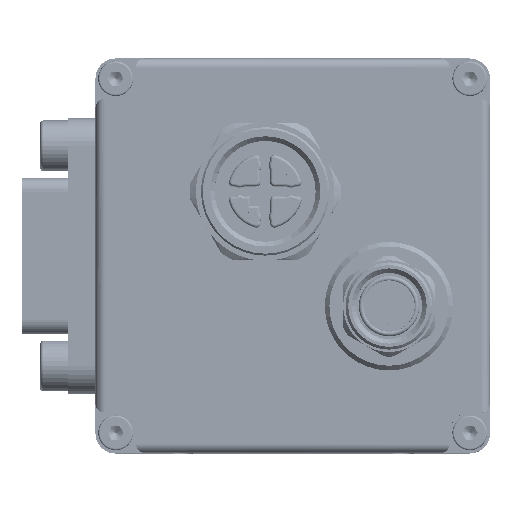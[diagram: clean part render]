
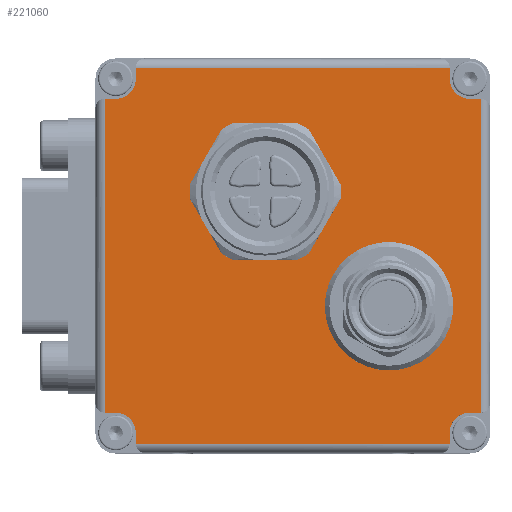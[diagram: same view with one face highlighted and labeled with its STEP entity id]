
A CAD part, top view. The second image highlights one B-rep face of the part: STEP entity #221060.
In plain terms, the highlighted planar face has unit normal (0, 0, 1).
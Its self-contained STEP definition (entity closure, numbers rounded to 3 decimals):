
#16987=FACE_BOUND('',#85601,.T.);
#16988=FACE_BOUND('',#85602,.T.);
#34857=LINE('',#374918,#52969);
#34862=LINE('',#374934,#52974);
#34896=LINE('',#375038,#53008);
#34900=LINE('',#375050,#53012);
#34901=LINE('',#375054,#53013);
#34902=LINE('',#375056,#53014);
#34903=LINE('',#375058,#53015);
#34904=LINE('',#375062,#53016);
#34905=LINE('',#375064,#53017);
#34906=LINE('',#375066,#53018);
#34907=LINE('',#375070,#53019);
#34908=LINE('',#375072,#53020);
#34909=LINE('',#375074,#53021);
#34910=LINE('',#375077,#53022);
#52969=VECTOR('',#311732,10.);
#52974=VECTOR('',#311751,10.);
#53008=VECTOR('',#311863,10.);
#53012=VECTOR('',#311875,10.);
#53013=VECTOR('',#311878,10.);
#53014=VECTOR('',#311879,10.);
#53015=VECTOR('',#311880,10.);
#53016=VECTOR('',#311883,10.);
#53017=VECTOR('',#311884,10.);
#53018=VECTOR('',#311885,10.);
#53019=VECTOR('',#311888,10.);
#53020=VECTOR('',#311889,10.);
#53021=VECTOR('',#311890,10.);
#53022=VECTOR('',#311893,10.);
#71543=FACE_OUTER_BOUND('',#85600,.T.);
#85600=EDGE_LOOP('',(#201933,#201934,#201935,#201936,#201937,#201938,#201939,
#201940,#201941,#201942,#201943,#201944,#201945,#201946,#201947,#201948));
#85601=EDGE_LOOP('',(#201949));
#85602=EDGE_LOOP('',(#201950,#201951,#201952,#201953,#201954,#201955,#201956,
#201957));
#96873=CIRCLE('',#245625,7.);
#96875=CIRCLE('',#245631,2.);
#96876=CIRCLE('',#245634,2.);
#96877=CIRCLE('',#245636,6.05);
#96878=CIRCLE('',#245638,2.);
#96879=CIRCLE('',#245641,2.);
#96880=CIRCLE('',#245643,6.05);
#96896=CIRCLE('',#245683,2.2);
#96897=CIRCLE('',#245684,2.2);
#96898=CIRCLE('',#245685,2.2);
#96899=CIRCLE('',#245686,2.2);
#113701=VERTEX_POINT('',#374893);
#113705=VERTEX_POINT('',#374911);
#113706=VERTEX_POINT('',#374913);
#113707=VERTEX_POINT('',#374917);
#113708=VERTEX_POINT('',#374921);
#113709=VERTEX_POINT('',#374925);
#113710=VERTEX_POINT('',#374929);
#113711=VERTEX_POINT('',#374933);
#113712=VERTEX_POINT('',#374937);
#113741=VERTEX_POINT('',#375035);
#113742=VERTEX_POINT('',#375037);
#113746=VERTEX_POINT('',#375049);
#113747=VERTEX_POINT('',#375051);
#113748=VERTEX_POINT('',#375053);
#113749=VERTEX_POINT('',#375055);
#113750=VERTEX_POINT('',#375057);
#113751=VERTEX_POINT('',#375059);
#113752=VERTEX_POINT('',#375061);
#113753=VERTEX_POINT('',#375063);
#113754=VERTEX_POINT('',#375065);
#113755=VERTEX_POINT('',#375067);
#113756=VERTEX_POINT('',#375069);
#113757=VERTEX_POINT('',#375071);
#113758=VERTEX_POINT('',#375073);
#113759=VERTEX_POINT('',#375075);
#143135=EDGE_CURVE('',#113701,#113701,#96873,.T.);
#143145=EDGE_CURVE('',#113706,#113705,#96875,.T.);
#143147=EDGE_CURVE('',#113707,#113706,#34857,.T.);
#143149=EDGE_CURVE('',#113708,#113707,#96876,.T.);
#143151=EDGE_CURVE('',#113709,#113708,#96877,.T.);
#143153=EDGE_CURVE('',#113710,#113709,#96878,.T.);
#143155=EDGE_CURVE('',#113711,#113710,#34862,.T.);
#143157=EDGE_CURVE('',#113712,#113711,#96879,.T.);
#143159=EDGE_CURVE('',#113705,#113712,#96880,.T.);
#143206=EDGE_CURVE('',#113741,#113742,#34896,.T.);
#143212=EDGE_CURVE('',#113741,#113746,#34900,.T.);
#143213=EDGE_CURVE('',#113746,#113747,#96896,.T.);
#143214=EDGE_CURVE('',#113747,#113748,#34901,.T.);
#143215=EDGE_CURVE('',#113749,#113748,#34902,.T.);
#143216=EDGE_CURVE('',#113749,#113750,#34903,.T.);
#143217=EDGE_CURVE('',#113750,#113751,#96897,.T.);
#143218=EDGE_CURVE('',#113751,#113752,#34904,.T.);
#143219=EDGE_CURVE('',#113753,#113752,#34905,.T.);
#143220=EDGE_CURVE('',#113753,#113754,#34906,.T.);
#143221=EDGE_CURVE('',#113754,#113755,#96898,.T.);
#143222=EDGE_CURVE('',#113755,#113756,#34907,.T.);
#143223=EDGE_CURVE('',#113757,#113756,#34908,.T.);
#143224=EDGE_CURVE('',#113757,#113758,#34909,.T.);
#143225=EDGE_CURVE('',#113758,#113759,#96899,.T.);
#143226=EDGE_CURVE('',#113759,#113742,#34910,.T.);
#201933=ORIENTED_EDGE('',*,*,#143206,.F.);
#201934=ORIENTED_EDGE('',*,*,#143212,.T.);
#201935=ORIENTED_EDGE('',*,*,#143213,.T.);
#201936=ORIENTED_EDGE('',*,*,#143214,.T.);
#201937=ORIENTED_EDGE('',*,*,#143215,.F.);
#201938=ORIENTED_EDGE('',*,*,#143216,.T.);
#201939=ORIENTED_EDGE('',*,*,#143217,.T.);
#201940=ORIENTED_EDGE('',*,*,#143218,.T.);
#201941=ORIENTED_EDGE('',*,*,#143219,.F.);
#201942=ORIENTED_EDGE('',*,*,#143220,.T.);
#201943=ORIENTED_EDGE('',*,*,#143221,.T.);
#201944=ORIENTED_EDGE('',*,*,#143222,.T.);
#201945=ORIENTED_EDGE('',*,*,#143223,.F.);
#201946=ORIENTED_EDGE('',*,*,#143224,.T.);
#201947=ORIENTED_EDGE('',*,*,#143225,.T.);
#201948=ORIENTED_EDGE('',*,*,#143226,.T.);
#201949=ORIENTED_EDGE('',*,*,#143135,.T.);
#201950=ORIENTED_EDGE('',*,*,#143153,.T.);
#201951=ORIENTED_EDGE('',*,*,#143151,.T.);
#201952=ORIENTED_EDGE('',*,*,#143149,.T.);
#201953=ORIENTED_EDGE('',*,*,#143147,.T.);
#201954=ORIENTED_EDGE('',*,*,#143145,.T.);
#201955=ORIENTED_EDGE('',*,*,#143159,.T.);
#201956=ORIENTED_EDGE('',*,*,#143157,.T.);
#201957=ORIENTED_EDGE('',*,*,#143155,.T.);
#208111=PLANE('',#245682);
#221060=ADVANCED_FACE('',(#71543,#16987,#16988),#208111,.T.);
#245625=AXIS2_PLACEMENT_3D('',#374895,#311707,#311708);
#245631=AXIS2_PLACEMENT_3D('',#374914,#311727,#311728);
#245634=AXIS2_PLACEMENT_3D('',#374922,#311736,#311737);
#245636=AXIS2_PLACEMENT_3D('',#374926,#311741,#311742);
#245638=AXIS2_PLACEMENT_3D('',#374930,#311746,#311747);
#245641=AXIS2_PLACEMENT_3D('',#374938,#311755,#311756);
#245643=AXIS2_PLACEMENT_3D('',#374941,#311760,#311761);
#245682=AXIS2_PLACEMENT_3D('',#375048,#311873,#311874);
#245683=AXIS2_PLACEMENT_3D('',#375052,#311876,#311877);
#245684=AXIS2_PLACEMENT_3D('',#375060,#311881,#311882);
#245685=AXIS2_PLACEMENT_3D('',#375068,#311886,#311887);
#245686=AXIS2_PLACEMENT_3D('',#375076,#311891,#311892);
#311707=DIRECTION('center_axis',(0.,0.,-1.));
#311708=DIRECTION('ref_axis',(1.,0.,0.));
#311727=DIRECTION('center_axis',(0.,0.,-1.));
#311728=DIRECTION('ref_axis',(-0.521,0.853,0.));
#311732=DIRECTION('',(0.,1.,0.));
#311736=DIRECTION('center_axis',(0.,0.,-1.));
#311737=DIRECTION('ref_axis',(-0.95,0.312,0.));
#311741=DIRECTION('center_axis',(0.,0.,-1.));
#311742=DIRECTION('ref_axis',(-0.734,-0.679,0.));
#311746=DIRECTION('center_axis',(0.,0.,-1.));
#311747=DIRECTION('ref_axis',(0.521,-0.853,0.));
#311751=DIRECTION('',(0.,-1.,0.));
#311755=DIRECTION('center_axis',(0.,0.,-1.));
#311756=DIRECTION('ref_axis',(0.95,-0.312,0.));
#311760=DIRECTION('center_axis',(0.,0.,-1.));
#311761=DIRECTION('ref_axis',(0.734,0.679,0.));
#311863=DIRECTION('',(1.,0.,0.));
#311873=DIRECTION('center_axis',(0.,0.,1.));
#311874=DIRECTION('ref_axis',(1.,0.,0.));
#311875=DIRECTION('',(0.,-1.,0.));
#311876=DIRECTION('center_axis',(0.,0.,-1.));
#311877=DIRECTION('ref_axis',(0.,-1.,0.));
#311878=DIRECTION('',(-1.,0.,0.));
#311879=DIRECTION('',(0.,1.,0.));
#311880=DIRECTION('',(1.,0.,0.));
#311881=DIRECTION('center_axis',(0.,0.,-1.));
#311882=DIRECTION('ref_axis',(1.,0.,0.));
#311883=DIRECTION('',(0.,-1.,0.));
#311884=DIRECTION('',(-1.,0.,0.));
#311885=DIRECTION('',(0.,1.,0.));
#311886=DIRECTION('center_axis',(0.,0.,-1.));
#311887=DIRECTION('ref_axis',(0.,1.,0.));
#311888=DIRECTION('',(1.,0.,0.));
#311889=DIRECTION('',(0.,-1.,0.));
#311890=DIRECTION('',(-1.,0.,0.));
#311891=DIRECTION('center_axis',(0.,0.,-1.));
#311892=DIRECTION('ref_axis',(-1.,0.,0.));
#311893=DIRECTION('',(0.,1.,0.));
#374893=CARTESIAN_POINT('',(3.5,-5.5,6.5));
#374895=CARTESIAN_POINT('Origin',(10.5,-5.5,6.5));
#374911=CARTESIAN_POINT('',(-7.443,11.107,6.5));
#374913=CARTESIAN_POINT('',(-8.3,8.776,6.5));
#374914=CARTESIAN_POINT('Origin',(-6.4,9.4,6.5));
#374917=CARTESIAN_POINT('',(-8.3,5.224,6.5));
#374918=CARTESIAN_POINT('',(-8.3,2.612,6.5));
#374921=CARTESIAN_POINT('',(-7.443,2.893,6.5));
#374922=CARTESIAN_POINT('Origin',(-6.4,4.6,6.5));
#374925=CARTESIAN_POINT('',(1.443,2.893,6.5));
#374926=CARTESIAN_POINT('Origin',(-3.,7.,6.5));
#374929=CARTESIAN_POINT('',(2.3,5.224,6.5));
#374930=CARTESIAN_POINT('Origin',(0.4,4.6,6.5));
#374933=CARTESIAN_POINT('',(2.3,8.776,6.5));
#374934=CARTESIAN_POINT('',(2.3,4.388,6.5));
#374937=CARTESIAN_POINT('',(1.443,11.107,6.5));
#374938=CARTESIAN_POINT('Origin',(0.4,9.4,6.5));
#374941=CARTESIAN_POINT('Origin',(-3.,7.,6.5));
#375035=CARTESIAN_POINT('',(-17.1,20.5,6.5));
#375037=CARTESIAN_POINT('',(17.1,20.5,6.5));
#375038=CARTESIAN_POINT('',(9.65,20.5,6.5));
#375048=CARTESIAN_POINT('Origin',(0.,0.,6.5));
#375049=CARTESIAN_POINT('',(-17.1,19.3,6.5));
#375050=CARTESIAN_POINT('',(-17.1,10.75,6.5));
#375051=CARTESIAN_POINT('',(-19.3,17.1,6.5));
#375052=CARTESIAN_POINT('Origin',(-19.3,19.3,6.5));
#375053=CARTESIAN_POINT('',(-20.5,17.1,6.5));
#375054=CARTESIAN_POINT('',(-9.65,17.1,6.5));
#375055=CARTESIAN_POINT('',(-20.5,-17.1,6.5));
#375056=CARTESIAN_POINT('',(-20.5,9.65,6.5));
#375057=CARTESIAN_POINT('',(-19.3,-17.1,6.5));
#375058=CARTESIAN_POINT('',(-10.75,-17.1,6.5));
#375059=CARTESIAN_POINT('',(-17.1,-19.3,6.5));
#375060=CARTESIAN_POINT('Origin',(-19.3,-19.3,6.5));
#375061=CARTESIAN_POINT('',(-17.1,-20.5,6.5));
#375062=CARTESIAN_POINT('',(-17.1,-9.65,6.5));
#375063=CARTESIAN_POINT('',(17.1,-20.5,6.5));
#375064=CARTESIAN_POINT('',(-9.65,-20.5,6.5));
#375065=CARTESIAN_POINT('',(17.1,-19.3,6.5));
#375066=CARTESIAN_POINT('',(17.1,-10.75,6.5));
#375067=CARTESIAN_POINT('',(19.3,-17.1,6.5));
#375068=CARTESIAN_POINT('Origin',(19.3,-19.3,6.5));
#375069=CARTESIAN_POINT('',(20.5,-17.1,6.5));
#375070=CARTESIAN_POINT('',(9.65,-17.1,6.5));
#375071=CARTESIAN_POINT('',(20.5,17.1,6.5));
#375072=CARTESIAN_POINT('',(20.5,-9.65,6.5));
#375073=CARTESIAN_POINT('',(19.3,17.1,6.5));
#375074=CARTESIAN_POINT('',(10.75,17.1,6.5));
#375075=CARTESIAN_POINT('',(17.1,19.3,6.5));
#375076=CARTESIAN_POINT('Origin',(19.3,19.3,6.5));
#375077=CARTESIAN_POINT('',(17.1,9.65,6.5));
